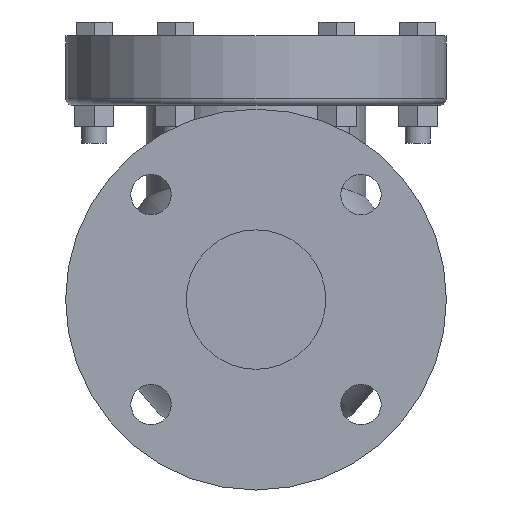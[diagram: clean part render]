
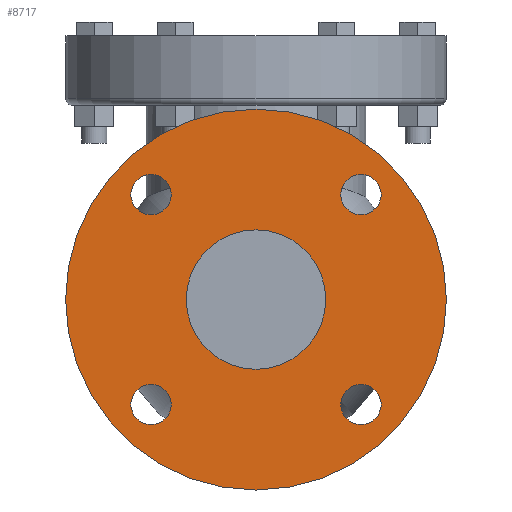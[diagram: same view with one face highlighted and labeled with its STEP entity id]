
A CAD part, left-side view. The second image highlights one B-rep face of the part: STEP entity #8717.
In plain terms, the highlighted planar face has unit normal (-1, 0, 0).
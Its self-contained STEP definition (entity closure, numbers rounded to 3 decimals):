
#7489 = CYLINDRICAL_SURFACE('',#7490,1.3);
#7490 = AXIS2_PLACEMENT_3D('',#7491,#7492,#7493);
#7491 = CARTESIAN_POINT('',(0.,0.,3.55
    ));
#7492 = DIRECTION('',(1.,0.,0.));
#7493 = DIRECTION('',(-0.,1.,0.));
#8178 = VERTEX_POINT('',#8179);
#8179 = CARTESIAN_POINT('',(0.,1.3,3.55));
#8199 = EDGE_CURVE('',#8178,#8178,#8200,.T.);
#8200 = SURFACE_CURVE('',#8201,(#8206,#8213),.PCURVE_S1.);
#8201 = CIRCLE('',#8202,1.3);
#8202 = AXIS2_PLACEMENT_3D('',#8203,#8204,#8205);
#8203 = CARTESIAN_POINT('',(0.,0.,3.55
    ));
#8204 = DIRECTION('',(1.,0.,0.));
#8205 = DIRECTION('',(-0.,1.,0.));
#8206 = PCURVE('',#7489,#8207);
#8207 = DEFINITIONAL_REPRESENTATION('',(#8208),#8212);
#8208 = LINE('',#8209,#8210);
#8209 = CARTESIAN_POINT('',(0.,0.));
#8210 = VECTOR('',#8211,1.);
#8211 = DIRECTION('',(1.,0.));
#8212 = ( GEOMETRIC_REPRESENTATION_CONTEXT(2) 
PARAMETRIC_REPRESENTATION_CONTEXT() REPRESENTATION_CONTEXT('2D SPACE',''
  ) );
#8213 = PCURVE('',#8214,#8219);
#8214 = PLANE('',#8215);
#8215 = AXIS2_PLACEMENT_3D('',#8216,#8217,#8218);
#8216 = CARTESIAN_POINT('',(0.,0.,3.55));
#8217 = DIRECTION('',(1.,0.,0.));
#8218 = DIRECTION('',(0.,0.,-1.));
#8219 = DEFINITIONAL_REPRESENTATION('',(#8220),#8224);
#8220 = CIRCLE('',#8221,1.3);
#8221 = AXIS2_PLACEMENT_2D('',#8222,#8223);
#8222 = CARTESIAN_POINT('',(0.,0.));
#8223 = DIRECTION('',(0.,1.));
#8224 = ( GEOMETRIC_REPRESENTATION_CONTEXT(2) 
PARAMETRIC_REPRESENTATION_CONTEXT() REPRESENTATION_CONTEXT('2D SPACE',''
  ) );
#8242 = CYLINDRICAL_SURFACE('',#8243,0.375);
#8243 = AXIS2_PLACEMENT_3D('',#8244,#8245,#8246);
#8244 = CARTESIAN_POINT('',(0.,1.957,
    1.593));
#8245 = DIRECTION('',(-1.,0.,0.));
#8246 = DIRECTION('',(-0.,-0.707,-0.707));
#8266 = VERTEX_POINT('',#8267);
#8267 = CARTESIAN_POINT('',(0.,1.692,
    1.328));
#8287 = EDGE_CURVE('',#8266,#8266,#8288,.T.);
#8288 = SURFACE_CURVE('',#8289,(#8294,#8301),.PCURVE_S1.);
#8289 = CIRCLE('',#8290,0.375);
#8290 = AXIS2_PLACEMENT_3D('',#8291,#8292,#8293);
#8291 = CARTESIAN_POINT('',(0.,1.957,
    1.593));
#8292 = DIRECTION('',(1.,0.,0.));
#8293 = DIRECTION('',(0.,-0.707,-0.707));
#8294 = PCURVE('',#8242,#8295);
#8295 = DEFINITIONAL_REPRESENTATION('',(#8296),#8300);
#8296 = LINE('',#8297,#8298);
#8297 = CARTESIAN_POINT('',(6.283,0.));
#8298 = VECTOR('',#8299,1.);
#8299 = DIRECTION('',(-1.,0.));
#8300 = ( GEOMETRIC_REPRESENTATION_CONTEXT(2) 
PARAMETRIC_REPRESENTATION_CONTEXT() REPRESENTATION_CONTEXT('2D SPACE',''
  ) );
#8301 = PCURVE('',#8214,#8302);
#8302 = DEFINITIONAL_REPRESENTATION('',(#8303),#8307);
#8303 = CIRCLE('',#8304,0.375);
#8304 = AXIS2_PLACEMENT_2D('',#8305,#8306);
#8305 = CARTESIAN_POINT('',(1.957,1.957));
#8306 = DIRECTION('',(0.707,-0.707));
#8307 = ( GEOMETRIC_REPRESENTATION_CONTEXT(2) 
PARAMETRIC_REPRESENTATION_CONTEXT() REPRESENTATION_CONTEXT('2D SPACE',''
  ) );
#8351 = CYLINDRICAL_SURFACE('',#8352,0.375);
#8352 = AXIS2_PLACEMENT_3D('',#8353,#8354,#8355);
#8353 = CARTESIAN_POINT('',(0.,-1.957,
    1.593));
#8354 = DIRECTION('',(1.,0.,0.));
#8355 = DIRECTION('',(0.,0.707,-0.707));
#8375 = VERTEX_POINT('',#8376);
#8376 = CARTESIAN_POINT('',(0.,-1.692,
    1.328));
#8396 = EDGE_CURVE('',#8375,#8375,#8397,.T.);
#8397 = SURFACE_CURVE('',#8398,(#8403,#8410),.PCURVE_S1.);
#8398 = CIRCLE('',#8399,0.375);
#8399 = AXIS2_PLACEMENT_3D('',#8400,#8401,#8402);
#8400 = CARTESIAN_POINT('',(0.,-1.957,
    1.593));
#8401 = DIRECTION('',(1.,0.,0.));
#8402 = DIRECTION('',(0.,0.707,-0.707)
  );
#8403 = PCURVE('',#8351,#8404);
#8404 = DEFINITIONAL_REPRESENTATION('',(#8405),#8409);
#8405 = LINE('',#8406,#8407);
#8406 = CARTESIAN_POINT('',(0.,0.));
#8407 = VECTOR('',#8408,1.);
#8408 = DIRECTION('',(1.,0.));
#8409 = ( GEOMETRIC_REPRESENTATION_CONTEXT(2) 
PARAMETRIC_REPRESENTATION_CONTEXT() REPRESENTATION_CONTEXT('2D SPACE',''
  ) );
#8410 = PCURVE('',#8214,#8411);
#8411 = DEFINITIONAL_REPRESENTATION('',(#8412),#8416);
#8412 = CIRCLE('',#8413,0.375);
#8413 = AXIS2_PLACEMENT_2D('',#8414,#8415);
#8414 = CARTESIAN_POINT('',(1.957,-1.957));
#8415 = DIRECTION('',(0.707,0.707));
#8416 = ( GEOMETRIC_REPRESENTATION_CONTEXT(2) 
PARAMETRIC_REPRESENTATION_CONTEXT() REPRESENTATION_CONTEXT('2D SPACE',''
  ) );
#8460 = CYLINDRICAL_SURFACE('',#8461,0.375);
#8461 = AXIS2_PLACEMENT_3D('',#8462,#8463,#8464);
#8462 = CARTESIAN_POINT('',(0.,1.957,
    5.507));
#8463 = DIRECTION('',(1.,0.,0.));
#8464 = DIRECTION('',(0.,0.707,-0.707));
#8484 = VERTEX_POINT('',#8485);
#8485 = CARTESIAN_POINT('',(0.,2.222,
    5.242));
#8505 = EDGE_CURVE('',#8484,#8484,#8506,.T.);
#8506 = SURFACE_CURVE('',#8507,(#8512,#8519),.PCURVE_S1.);
#8507 = CIRCLE('',#8508,0.375);
#8508 = AXIS2_PLACEMENT_3D('',#8509,#8510,#8511);
#8509 = CARTESIAN_POINT('',(0.,1.957,
    5.507));
#8510 = DIRECTION('',(1.,0.,0.));
#8511 = DIRECTION('',(0.,0.707,-0.707)
  );
#8512 = PCURVE('',#8460,#8513);
#8513 = DEFINITIONAL_REPRESENTATION('',(#8514),#8518);
#8514 = LINE('',#8515,#8516);
#8515 = CARTESIAN_POINT('',(0.,0.));
#8516 = VECTOR('',#8517,1.);
#8517 = DIRECTION('',(1.,0.));
#8518 = ( GEOMETRIC_REPRESENTATION_CONTEXT(2) 
PARAMETRIC_REPRESENTATION_CONTEXT() REPRESENTATION_CONTEXT('2D SPACE',''
  ) );
#8519 = PCURVE('',#8214,#8520);
#8520 = DEFINITIONAL_REPRESENTATION('',(#8521),#8525);
#8521 = CIRCLE('',#8522,0.375);
#8522 = AXIS2_PLACEMENT_2D('',#8523,#8524);
#8523 = CARTESIAN_POINT('',(-1.957,1.957));
#8524 = DIRECTION('',(0.707,0.707));
#8525 = ( GEOMETRIC_REPRESENTATION_CONTEXT(2) 
PARAMETRIC_REPRESENTATION_CONTEXT() REPRESENTATION_CONTEXT('2D SPACE',''
  ) );
#8569 = CYLINDRICAL_SURFACE('',#8570,0.375);
#8570 = AXIS2_PLACEMENT_3D('',#8571,#8572,#8573);
#8571 = CARTESIAN_POINT('',(0.,-1.957,
    5.507));
#8572 = DIRECTION('',(-1.,0.,0.));
#8573 = DIRECTION('',(-0.,-0.707,-0.707));
#8593 = VERTEX_POINT('',#8594);
#8594 = CARTESIAN_POINT('',(0.,-2.222,
    5.242));
#8614 = EDGE_CURVE('',#8593,#8593,#8615,.T.);
#8615 = SURFACE_CURVE('',#8616,(#8621,#8628),.PCURVE_S1.);
#8616 = CIRCLE('',#8617,0.375);
#8617 = AXIS2_PLACEMENT_3D('',#8618,#8619,#8620);
#8618 = CARTESIAN_POINT('',(0.,-1.957,
    5.507));
#8619 = DIRECTION('',(1.,0.,0.));
#8620 = DIRECTION('',(0.,-0.707,-0.707));
#8621 = PCURVE('',#8569,#8622);
#8622 = DEFINITIONAL_REPRESENTATION('',(#8623),#8627);
#8623 = LINE('',#8624,#8625);
#8624 = CARTESIAN_POINT('',(6.283,0.));
#8625 = VECTOR('',#8626,1.);
#8626 = DIRECTION('',(-1.,0.));
#8627 = ( GEOMETRIC_REPRESENTATION_CONTEXT(2) 
PARAMETRIC_REPRESENTATION_CONTEXT() REPRESENTATION_CONTEXT('2D SPACE',''
  ) );
#8628 = PCURVE('',#8214,#8629);
#8629 = DEFINITIONAL_REPRESENTATION('',(#8630),#8634);
#8630 = CIRCLE('',#8631,0.375);
#8631 = AXIS2_PLACEMENT_2D('',#8632,#8633);
#8632 = CARTESIAN_POINT('',(-1.957,-1.957));
#8633 = DIRECTION('',(0.707,-0.707));
#8634 = ( GEOMETRIC_REPRESENTATION_CONTEXT(2) 
PARAMETRIC_REPRESENTATION_CONTEXT() REPRESENTATION_CONTEXT('2D SPACE',''
  ) );
#8706 = CYLINDRICAL_SURFACE('',#8707,3.55);
#8707 = AXIS2_PLACEMENT_3D('',#8708,#8709,#8710);
#8708 = CARTESIAN_POINT('',(0.,0.,3.55));
#8709 = DIRECTION('',(1.,0.,0.));
#8710 = DIRECTION('',(-0.,1.,0.));
#8717 = ADVANCED_FACE('',(#8718,#8721,#8724,#8727,#8730,#8733),#8214,.F.
  );
#8718 = FACE_BOUND('',#8719,.T.);
#8719 = EDGE_LOOP('',(#8720));
#8720 = ORIENTED_EDGE('',*,*,#8199,.T.);
#8721 = FACE_BOUND('',#8722,.T.);
#8722 = EDGE_LOOP('',(#8723));
#8723 = ORIENTED_EDGE('',*,*,#8287,.T.);
#8724 = FACE_BOUND('',#8725,.T.);
#8725 = EDGE_LOOP('',(#8726));
#8726 = ORIENTED_EDGE('',*,*,#8396,.T.);
#8727 = FACE_BOUND('',#8728,.T.);
#8728 = EDGE_LOOP('',(#8729));
#8729 = ORIENTED_EDGE('',*,*,#8505,.T.);
#8730 = FACE_BOUND('',#8731,.T.);
#8731 = EDGE_LOOP('',(#8732));
#8732 = ORIENTED_EDGE('',*,*,#8614,.T.);
#8733 = FACE_BOUND('',#8734,.T.);
#8734 = EDGE_LOOP('',(#8735));
#8735 = ORIENTED_EDGE('',*,*,#8736,.F.);
#8736 = EDGE_CURVE('',#8737,#8737,#8739,.T.);
#8737 = VERTEX_POINT('',#8738);
#8738 = CARTESIAN_POINT('',(0.,3.55,3.55));
#8739 = SURFACE_CURVE('',#8740,(#8745,#8752),.PCURVE_S1.);
#8740 = CIRCLE('',#8741,3.55);
#8741 = AXIS2_PLACEMENT_3D('',#8742,#8743,#8744);
#8742 = CARTESIAN_POINT('',(0.,0.,3.55));
#8743 = DIRECTION('',(1.,0.,0.));
#8744 = DIRECTION('',(-0.,1.,0.));
#8745 = PCURVE('',#8214,#8746);
#8746 = DEFINITIONAL_REPRESENTATION('',(#8747),#8751);
#8747 = CIRCLE('',#8748,3.55);
#8748 = AXIS2_PLACEMENT_2D('',#8749,#8750);
#8749 = CARTESIAN_POINT('',(0.,0.));
#8750 = DIRECTION('',(0.,1.));
#8751 = ( GEOMETRIC_REPRESENTATION_CONTEXT(2) 
PARAMETRIC_REPRESENTATION_CONTEXT() REPRESENTATION_CONTEXT('2D SPACE',''
  ) );
#8752 = PCURVE('',#8706,#8753);
#8753 = DEFINITIONAL_REPRESENTATION('',(#8754),#8758);
#8754 = LINE('',#8755,#8756);
#8755 = CARTESIAN_POINT('',(0.,0.));
#8756 = VECTOR('',#8757,1.);
#8757 = DIRECTION('',(1.,0.));
#8758 = ( GEOMETRIC_REPRESENTATION_CONTEXT(2) 
PARAMETRIC_REPRESENTATION_CONTEXT() REPRESENTATION_CONTEXT('2D SPACE',''
  ) );
